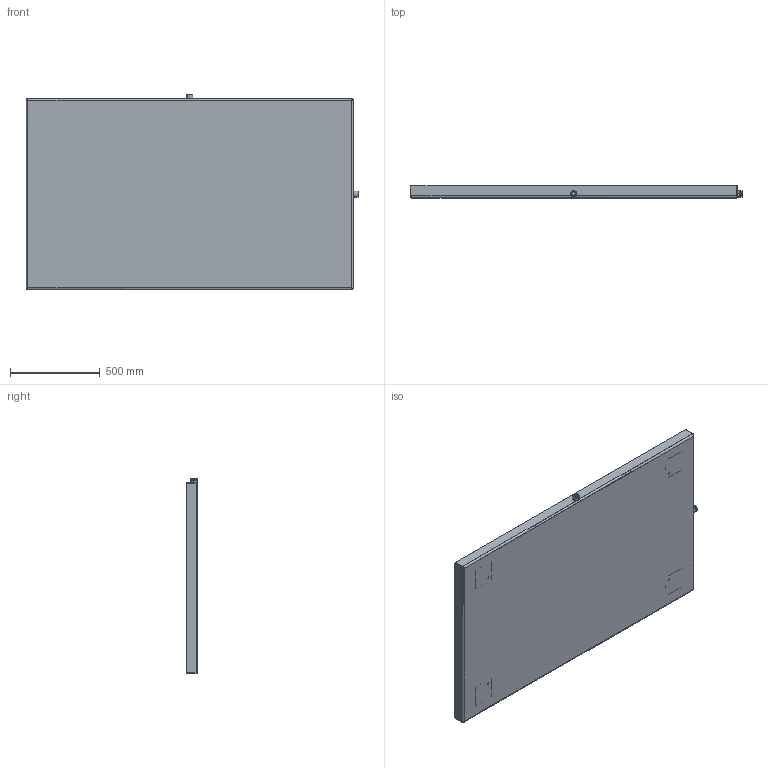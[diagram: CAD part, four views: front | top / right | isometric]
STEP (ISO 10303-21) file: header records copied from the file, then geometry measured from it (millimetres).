
FILE_DESCRIPTION (( 'STEP AP203' ), '1' );
FILE_NAME ('RJDPP120.STEP', '2015-01-07T19:46:55', ( '' ), ( '' ), 'SwSTEP 2.0', 'SolidWorks 2014', '' );
FILE_SCHEMA (( 'CONFIG_CONTROL_DESIGN' ));
Length unit declared in the file: inch
Products named in the file (1): RJDPP120
Bounding box: 1854.2 x 66.67 x 1092.2 mm (x, y, z)
Volume: 11257979.3 mm3; surface area: 4773664 mm2
Topology: 9 solids, 9 shells, 253 faces, 545 edges, 310 vertices
Faces by surface type: cone 128, plane 70, cylinder 45, bspline 10
Entity records: 7526 total; most frequent: CARTESIAN_POINT 1933, DIRECTION 1207, ORIENTED_EDGE 1090, EDGE_CURVE 545, AXIS2_PLACEMENT_3D 454, VERTEX_POINT 310, VECTOR 299, LINE 299
